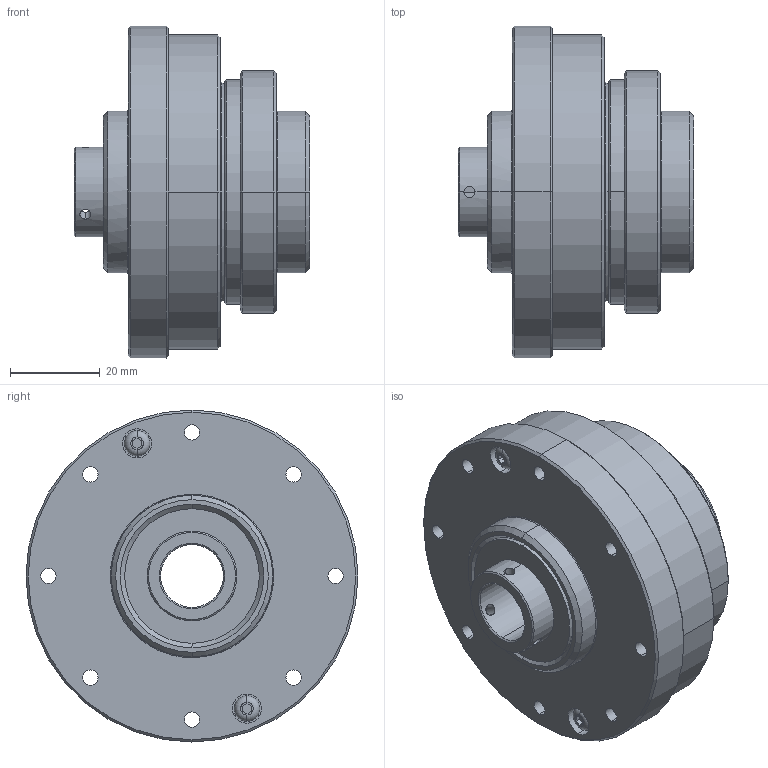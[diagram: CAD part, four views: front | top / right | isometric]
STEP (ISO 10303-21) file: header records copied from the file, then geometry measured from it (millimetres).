
FILE_DESCRIPTION(('STEP AP214'),'1');
FILE_NAME('cctmp_ACFAF0B4-E025-4F45-A4C8-62BC35378FEA_2025_03_06_11_22_04_0979_3160..stp','2025-03-06T10:22:05',('HIWIN GmbH'),('CADClick - www.CADClick.com'),'Spatial InterOp 3D',' ','unknown authorization');
FILE_SCHEMA(('AUTOMOTIVE_DESIGN'));
Length unit declared in the file: millimetre
Products named in the file (2): DSH-14-XX-AH_FILE; 2025_03_06_11_22_04_0979
Assembly tree (1 placements, depth 2):
  DSH-14-XX-AH_FILE
    2025_03_06_11_22_04_0979
Bounding box: 52.5 x 74 x 74 mm (x, y, z)
Volume: 113523.2 mm3; surface area: 24065.6 mm2
Topology: 1 solids, 1 shells, 328 faces, 766 edges, 484 vertices
Faces by surface type: cylinder 138, plane 92, cone 82, bspline 12, torus 4
Entity records: 12816 total; most frequent: CARTESIAN_POINT 2412, DIRECTION 1746, ORIENTED_EDGE 1500, EDGE_CURVE 750, AXIS2_PLACEMENT_3D 708, VERTEX_POINT 484, EDGE_LOOP 412, CIRCLE 390
